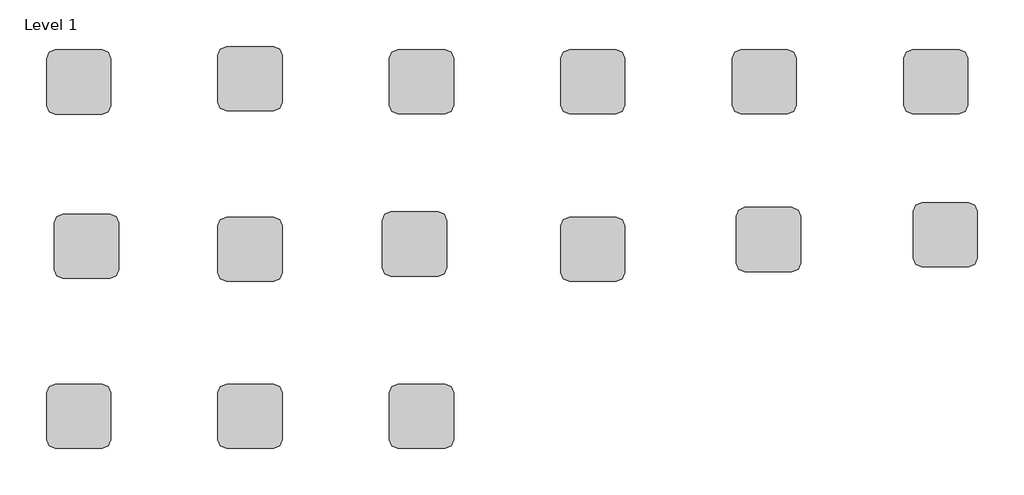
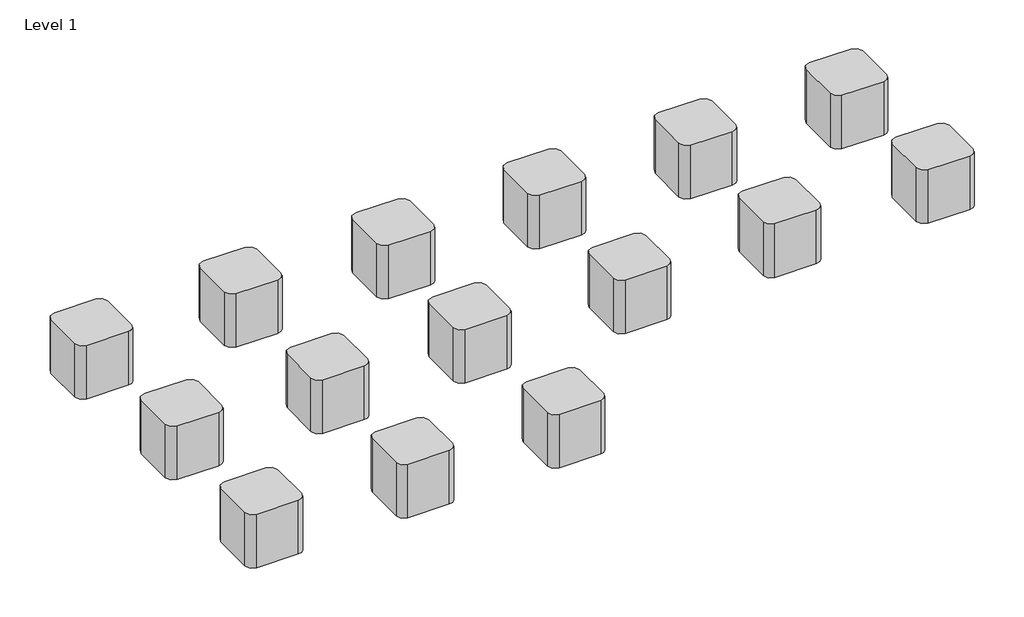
# One storey: 15 proxies.
"""IFC4 building model written with IfcOpenShell, lengths in millimetres."""

from ifc_helpers import new_model, si_unit, origin, place, context, project, spatial, transform, mapped, element, save
from components import material_cube_material_cube_d003602f

model = new_model("IFC4")

# Units and contexts
model_context = context("Model", 3, world=origin())
ifc_project = project(units=[si_unit("LENGTHUNIT", "METRE", prefix="MILLI")], contexts=[model_context])

# Site, building, storey
site = spatial("IfcSite", under=ifc_project)
building = spatial("IfcBuilding", under=site)
storey = spatial("IfcBuildingStorey", under=building, Name="Level 1", Elevation=0.0)

# Proxies
placement = place(None, origin())
material_cube_material_cube_shape = material_cube_material_cube_d003602f(model_context)
element("IfcBuildingElementProxy", 1, Name="Material Cube : Material Cube", ObjectType="Material Cube : Material Cube", at=placement, inside=storey, context=model_context, shape_type="MappedRepresentation", body=[
    mapped(material_cube_material_cube_shape, transform((-11409.6244944, 12105.9769556, 0.0), x_axis=(1.0, 0.0, 0.0), y_axis=(0.0, 1.0, 0.0), z_axis=(0.0, 0.0, 1.0))),
])
element("IfcBuildingElementProxy", 2, Name="Material Cube : Material Cube", ObjectType="Material Cube : Material Cube", at=placement, inside=storey, context=model_context, shape_type="MappedRepresentation", body=[
    mapped(material_cube_material_cube_shape, transform((-10393.6244944, 12126.0937129, 0.0), x_axis=(1.0, 0.0, 0.0), y_axis=(0.0, 1.0, 0.0), z_axis=(0.0, 0.0, 1.0))),
])
element("IfcBuildingElementProxy", 3, Name="Material Cube : Material Cube", ObjectType="Material Cube : Material Cube", at=placement, inside=storey, context=model_context, shape_type="MappedRepresentation", body=[
    mapped(material_cube_material_cube_shape, transform((-9377.6244944, 12108.028505, 0.0), x_axis=(1.0, 0.0, 0.0), y_axis=(0.0, 1.0, 0.0), z_axis=(0.0, 0.0, 1.0))),
])
element("IfcBuildingElementProxy", 4, Name="Material Cube : Material Cube", ObjectType="Material Cube : Material Cube", at=placement, inside=storey, context=model_context, shape_type="MappedRepresentation", body=[
    mapped(material_cube_material_cube_shape, transform((-8361.6244944, 12108.028505, 0.0), x_axis=(1.0, 0.0, 0.0), y_axis=(0.0, 1.0, 0.0), z_axis=(0.0, 0.0, 1.0))),
])
element("IfcBuildingElementProxy", 5, Name="Material Cube : Material Cube", ObjectType="Material Cube : Material Cube", at=placement, inside=storey, context=model_context, shape_type="MappedRepresentation", body=[
    mapped(material_cube_material_cube_shape, transform((-7345.6244944, 12108.028505, 0.0), x_axis=(1.0, 0.0, 0.0), y_axis=(0.0, 1.0, 0.0), z_axis=(0.0, 0.0, 1.0))),
])
element("IfcBuildingElementProxy", 6, Name="Material Cube : Material Cube", ObjectType="Material Cube : Material Cube", at=placement, inside=storey, context=model_context, shape_type="MappedRepresentation", body=[
    mapped(material_cube_material_cube_shape, transform((-6329.6244944, 12108.028505, 0.0), x_axis=(1.0, 0.0, 0.0), y_axis=(0.0, 1.0, 0.0), z_axis=(0.0, 0.0, 1.0))),
])
element("IfcBuildingElementProxy", 7, Name="Material Cube : Material Cube", ObjectType="Material Cube : Material Cube", at=placement, inside=storey, context=model_context, shape_type="MappedRepresentation", body=[
    mapped(material_cube_material_cube_shape, transform((-11363.3526527, 11132.4328606, 0.0), x_axis=(1.0, 0.0, 0.0), y_axis=(0.0, 1.0, 0.0), z_axis=(0.0, 0.0, 1.0))),
])
element("IfcBuildingElementProxy", 8, Name="Material Cube : Material Cube", ObjectType="Material Cube : Material Cube", at=placement, inside=storey, context=model_context, shape_type="MappedRepresentation", body=[
    mapped(material_cube_material_cube_shape, transform((-10393.6244944, 11115.3769556, 0.0), x_axis=(1.0, 0.0, 0.0), y_axis=(0.0, 1.0, 0.0), z_axis=(0.0, 0.0, 1.0))),
])
element("IfcBuildingElementProxy", 9, Name="Material Cube : Material Cube", ObjectType="Material Cube : Material Cube", at=placement, inside=storey, context=model_context, shape_type="MappedRepresentation", body=[
    mapped(material_cube_material_cube_shape, transform((-9418.899324, 11145.4590639, 0.0), x_axis=(1.0, 0.0, 0.0), y_axis=(0.0, 1.0, 0.0), z_axis=(0.0, 0.0, 1.0))),
])
element("IfcBuildingElementProxy", 10, Name="Material Cube : Material Cube", ObjectType="Material Cube : Material Cube", at=placement, inside=storey, context=model_context, shape_type="MappedRepresentation", body=[
    mapped(material_cube_material_cube_shape, transform((-8361.6244944, 11115.3769556, 0.0), x_axis=(1.0, 0.0, 0.0), y_axis=(0.0, 1.0, 0.0), z_axis=(0.0, 0.0, 1.0))),
])
element("IfcBuildingElementProxy", 11, Name="Material Cube : Material Cube", ObjectType="Material Cube : Material Cube", at=placement, inside=storey, context=model_context, shape_type="MappedRepresentation", body=[
    mapped(material_cube_material_cube_shape, transform((-7320.9514508, 11171.9843278, 0.0), x_axis=(1.0, 0.0, 0.0), y_axis=(0.0, 1.0, 0.0), z_axis=(0.0, 0.0, 1.0))),
])
element("IfcBuildingElementProxy", 12, Name="Material Cube : Material Cube", ObjectType="Material Cube : Material Cube", at=placement, inside=storey, context=model_context, shape_type="MappedRepresentation", body=[
    mapped(material_cube_material_cube_shape, transform((-6272.2931201, 11201.0782806, 0.0), x_axis=(1.0, 0.0, 0.0), y_axis=(0.0, 1.0, 0.0), z_axis=(0.0, 0.0, 1.0))),
])
element("IfcBuildingElementProxy", 13, Name="Material Cube : Material Cube", ObjectType="Material Cube : Material Cube", at=placement, inside=storey, context=model_context, shape_type="MappedRepresentation", body=[
    mapped(material_cube_material_cube_shape, transform((-11409.6244944, 10124.7769556, 0.0), x_axis=(1.0, 0.0, 0.0), y_axis=(0.0, 1.0, 0.0), z_axis=(0.0, 0.0, 1.0))),
])
element("IfcBuildingElementProxy", 14, Name="Material Cube : Material Cube", ObjectType="Material Cube : Material Cube", at=placement, inside=storey, context=model_context, shape_type="MappedRepresentation", body=[
    mapped(material_cube_material_cube_shape, transform((-10393.6244944, 10124.7769556, 0.0), x_axis=(1.0, 0.0, 0.0), y_axis=(0.0, 1.0, 0.0), z_axis=(0.0, 0.0, 1.0))),
])
element("IfcBuildingElementProxy", 15, Name="Material Cube : Material Cube", ObjectType="Material Cube : Material Cube", at=placement, inside=storey, context=model_context, shape_type="MappedRepresentation", body=[
    mapped(material_cube_material_cube_shape, transform((-9377.6244944, 10124.7769556, 0.0), x_axis=(1.0, 0.0, 0.0), y_axis=(0.0, 1.0, 0.0), z_axis=(0.0, 0.0, 1.0))),
])

save(model, "model.ifc")
